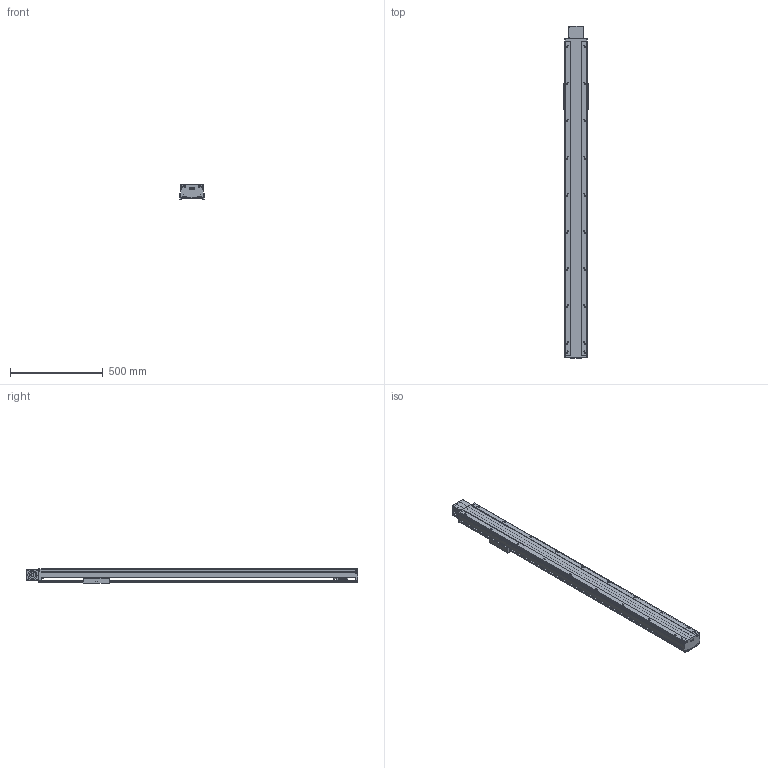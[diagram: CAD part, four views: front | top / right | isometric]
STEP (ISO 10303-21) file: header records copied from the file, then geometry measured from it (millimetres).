
FILE_DESCRIPTION(/* description */ (''),/* implementation_level */ '2;1');
FILE_NAME(/* name */ 'TKB120-FL-1400_asm1_stp.stp',/* time_stamp */ '2016-06-28T15:29:13+08:00',/* author */ (''),/* organization */ (''),/* preprocessor_version */ 'ST-DEVELOPER v15',/* originating_system */ 'SIEMENS PLM Software NX 8.5',/* authorisation */ '');
FILE_SCHEMA (('AUTOMOTIVE_DESIGN { 1 0 10303 214 3 1 1 1 }'));
Length unit declared in the file: millimetre
Products named in the file (3): 200-2; 200-1; TKB120-FL-1400_asm1_stp
Assembly tree (2 placements, depth 2):
  TKB120-FL-1400_asm1_stp
    200-1
    200-2
Bounding box: 134 x 1791 x 80 mm (x, y, z)
Volume: 4496408.3 mm3; surface area: 1835968.9 mm2
Topology: 2 solids, 3 shells, 832 faces, 2409 edges, 1577 vertices
Faces by surface type: cylinder 413, plane 377, cone 42
Full cylindrical faces by diameter (mm): 2.5 x4, 3.3 x20, 4.2 x4, 4.5 x24, 5 x30, 5.5 x20, 6.6 x6, 6.8 x4, 7.5 x4, 8 x12, 9 x6, 9.75 x40, 10.5 x4, 11 x2, 12 x4, 14 x2, 17 x2, 35 x2, 40 x3, 50 x2, 52 x1
Entity records: 27253 total; most frequent: CARTESIAN_POINT 5901, DIRECTION 4480, ORIENTED_EDGE 4122, EDGE_CURVE 2061, AXIS2_PLACEMENT_3D 1708, VERTEX_POINT 1509, EDGE_LOOP 1264, LINE 1064
